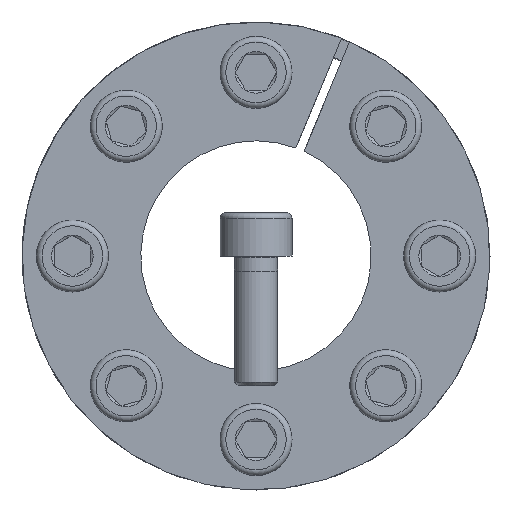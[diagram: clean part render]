
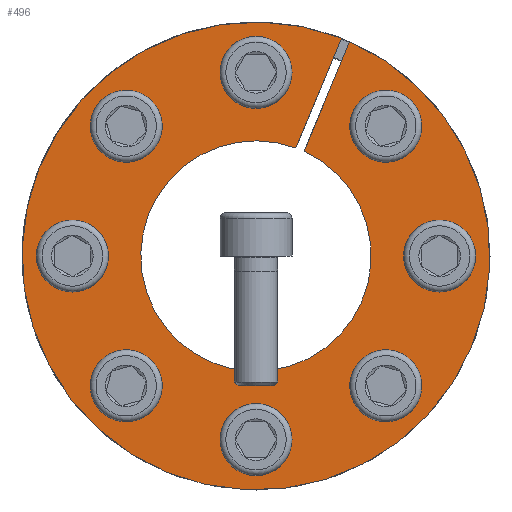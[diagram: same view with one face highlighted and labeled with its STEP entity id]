
A CAD part, front view. The second image highlights one B-rep face of the part: STEP entity #496.
In plain terms, the highlighted planar face has unit normal (0, -1, 0).
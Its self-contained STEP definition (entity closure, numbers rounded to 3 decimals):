
#496 = ADVANCED_FACE( '', ( #896, #897, #898, #899, #900, #901, #902, #903, #904 ), #905, .F. );
#896 = FACE_BOUND( '', #1468, .T. );
#897 = FACE_BOUND( '', #1469, .T. );
#898 = FACE_BOUND( '', #1470, .T. );
#899 = FACE_BOUND( '', #1471, .T. );
#900 = FACE_BOUND( '', #1472, .T. );
#901 = FACE_BOUND( '', #1473, .T. );
#902 = FACE_BOUND( '', #1474, .T. );
#903 = FACE_BOUND( '', #1475, .T. );
#904 = FACE_OUTER_BOUND( '', #1476, .T. );
#905 = PLANE( '', #1477 );
#1468 = EDGE_LOOP( '', ( #2149 ) );
#1469 = EDGE_LOOP( '', ( #2150 ) );
#1470 = EDGE_LOOP( '', ( #2151 ) );
#1471 = EDGE_LOOP( '', ( #2152 ) );
#1472 = EDGE_LOOP( '', ( #2153 ) );
#1473 = EDGE_LOOP( '', ( #2154 ) );
#1474 = EDGE_LOOP( '', ( #2155 ) );
#1475 = EDGE_LOOP( '', ( #2156 ) );
#1476 = EDGE_LOOP( '', ( #2157, #2158, #2159, #2160 ) );
#1477 = AXIS2_PLACEMENT_3D( '', #2161, #2162, #2163 );
#2149 = ORIENTED_EDGE( '', *, *, #3435, .T. );
#2150 = ORIENTED_EDGE( '', *, *, #3436, .T. );
#2151 = ORIENTED_EDGE( '', *, *, #3437, .T. );
#2152 = ORIENTED_EDGE( '', *, *, #3438, .T. );
#2153 = ORIENTED_EDGE( '', *, *, #3439, .T. );
#2154 = ORIENTED_EDGE( '', *, *, #3440, .T. );
#2155 = ORIENTED_EDGE( '', *, *, #3441, .T. );
#2156 = ORIENTED_EDGE( '', *, *, #3424, .T. );
#2157 = ORIENTED_EDGE( '', *, *, #3419, .T. );
#2158 = ORIENTED_EDGE( '', *, *, #3425, .T. );
#2159 = ORIENTED_EDGE( '', *, *, #3396, .T. );
#2160 = ORIENTED_EDGE( '', *, *, #3387, .F. );
#2161 = CARTESIAN_POINT( '', ( 0., 0., 32.5 ) );
#2162 = DIRECTION( '', ( 0., 1., 0. ) );
#2163 = DIRECTION( '', ( 0., 0., 1. ) );
#3387 = EDGE_CURVE( '', #3758, #3754, #3760, .T. );
#3396 = EDGE_CURVE( '', #3777, #3754, #3778, .T. );
#3419 = EDGE_CURVE( '', #3758, #3813, #3815, .T. );
#3424 = EDGE_CURVE( '', #3821, #3821, #3822, .T. );
#3425 = EDGE_CURVE( '', #3813, #3777, #3823, .T. );
#3435 = EDGE_CURVE( '', #3841, #3841, #3842, .T. );
#3436 = EDGE_CURVE( '', #3843, #3843, #3844, .T. );
#3437 = EDGE_CURVE( '', #3845, #3845, #3846, .T. );
#3438 = EDGE_CURVE( '', #3847, #3847, #3848, .T. );
#3439 = EDGE_CURVE( '', #3849, #3849, #3850, .T. );
#3440 = EDGE_CURVE( '', #3851, #3851, #3852, .T. );
#3441 = EDGE_CURVE( '', #3853, #3853, #3854, .T. );
#3754 = VERTEX_POINT( '', #4267 );
#3758 = VERTEX_POINT( '', #4272 );
#3760 = CIRCLE( '', #4275, 16. );
#3777 = VERTEX_POINT( '', #4300 );
#3778 = LINE( '', #4301, #4302 );
#3813 = VERTEX_POINT( '', #4366 );
#3815 = LINE( '', #4369, #4370 );
#3821 = VERTEX_POINT( '', #4376 );
#3822 = CIRCLE( '', #4377, 3. );
#3823 = CIRCLE( '', #4378, 32.5 );
#3841 = VERTEX_POINT( '', #4396 );
#3842 = CIRCLE( '', #4397, 3. );
#3843 = VERTEX_POINT( '', #4398 );
#3844 = CIRCLE( '', #4399, 3. );
#3845 = VERTEX_POINT( '', #4400 );
#3846 = CIRCLE( '', #4401, 3. );
#3847 = VERTEX_POINT( '', #4402 );
#3848 = CIRCLE( '', #4403, 3. );
#3849 = VERTEX_POINT( '', #4404 );
#3850 = CIRCLE( '', #4405, 3. );
#3851 = VERTEX_POINT( '', #4406 );
#3852 = CIRCLE( '', #4407, 3. );
#3853 = VERTEX_POINT( '', #4408 );
#3854 = CIRCLE( '', #4409, 3. );
#4267 = CARTESIAN_POINT( '', ( 6.686, 0., 14.536 ) );
#4272 = CARTESIAN_POINT( '', ( 5.551, 0., 15.006 ) );
#4275 = AXIS2_PLACEMENT_3D( '', #5232, #5233, #5234 );
#4300 = CARTESIAN_POINT( '', ( 13.003, 0., 29.786 ) );
#4301 = CARTESIAN_POINT( '', ( 13.005, 0., 29.791 ) );
#4302 = VECTOR( '', #5249, 1000. );
#4366 = CARTESIAN_POINT( '', ( 11.867, 0., 30.256 ) );
#4369 = CARTESIAN_POINT( '', ( 5.551, 0., 15.006 ) );
#4370 = VECTOR( '', #5274, 1000. );
#4376 = CARTESIAN_POINT( '', ( -15.91, 0., 20.153 ) );
#4377 = AXIS2_PLACEMENT_3D( '', #5287, #5288, #5289 );
#4378 = AXIS2_PLACEMENT_3D( '', #5290, #5291, #5292 );
#4396 = CARTESIAN_POINT( '', ( 3., 0., 25.5 ) );
#4397 = AXIS2_PLACEMENT_3D( '', #5320, #5321, #5322 );
#4398 = CARTESIAN_POINT( '', ( 20.153, 0., 15.91 ) );
#4399 = AXIS2_PLACEMENT_3D( '', #5323, #5324, #5325 );
#4400 = CARTESIAN_POINT( '', ( 25.5, 0., -3. ) );
#4401 = AXIS2_PLACEMENT_3D( '', #5326, #5327, #5328 );
#4402 = CARTESIAN_POINT( '', ( 15.91, 0., -20.153 ) );
#4403 = AXIS2_PLACEMENT_3D( '', #5329, #5330, #5331 );
#4404 = CARTESIAN_POINT( '', ( -3., 0., -25.5 ) );
#4405 = AXIS2_PLACEMENT_3D( '', #5332, #5333, #5334 );
#4406 = CARTESIAN_POINT( '', ( -20.153, 0., -15.91 ) );
#4407 = AXIS2_PLACEMENT_3D( '', #5335, #5336, #5337 );
#4408 = CARTESIAN_POINT( '', ( -25.5, 0., 3. ) );
#4409 = AXIS2_PLACEMENT_3D( '', #5338, #5339, #5340 );
#5232 = CARTESIAN_POINT( '', ( 0., 0., 0. ) );
#5233 = DIRECTION( '', ( 0., -1., 0. ) );
#5234 = DIRECTION( '', ( 0., 0., -1. ) );
#5249 = DIRECTION( '', ( -0.383, 0., -0.924 ) );
#5274 = DIRECTION( '', ( 0.383, 0., 0.924 ) );
#5287 = CARTESIAN_POINT( '', ( -18.031, 0., 18.031 ) );
#5288 = DIRECTION( '', ( 0., 1., 0. ) );
#5289 = DIRECTION( '', ( 0.707, 0., 0.707 ) );
#5290 = CARTESIAN_POINT( '', ( 0., 0., 0. ) );
#5291 = DIRECTION( '', ( 0., -1., 0. ) );
#5292 = DIRECTION( '', ( 0., 0., -1. ) );
#5320 = CARTESIAN_POINT( '', ( 0., 0., 25.5 ) );
#5321 = DIRECTION( '', ( 0., 1., 0. ) );
#5322 = DIRECTION( '', ( 1., 0., 0. ) );
#5323 = CARTESIAN_POINT( '', ( 18.031, 0., 18.031 ) );
#5324 = DIRECTION( '', ( 0., 1., 0. ) );
#5325 = DIRECTION( '', ( 0.707, 0., -0.707 ) );
#5326 = CARTESIAN_POINT( '', ( 25.5, 0., 0. ) );
#5327 = DIRECTION( '', ( 0., 1., 0. ) );
#5328 = DIRECTION( '', ( 0., 0., -1. ) );
#5329 = CARTESIAN_POINT( '', ( 18.031, 0., -18.031 ) );
#5330 = DIRECTION( '', ( 0., 1., 0. ) );
#5331 = DIRECTION( '', ( -0.707, 0., -0.707 ) );
#5332 = CARTESIAN_POINT( '', ( 0., 0., -25.5 ) );
#5333 = DIRECTION( '', ( 0., 1., 0. ) );
#5334 = DIRECTION( '', ( -1., 0., 0. ) );
#5335 = CARTESIAN_POINT( '', ( -18.031, 0., -18.031 ) );
#5336 = DIRECTION( '', ( 0., 1., 0. ) );
#5337 = DIRECTION( '', ( -0.707, 0., 0.707 ) );
#5338 = CARTESIAN_POINT( '', ( -25.5, 0., 0. ) );
#5339 = DIRECTION( '', ( 0., 1., 0. ) );
#5340 = DIRECTION( '', ( 0., 0., 1. ) );
